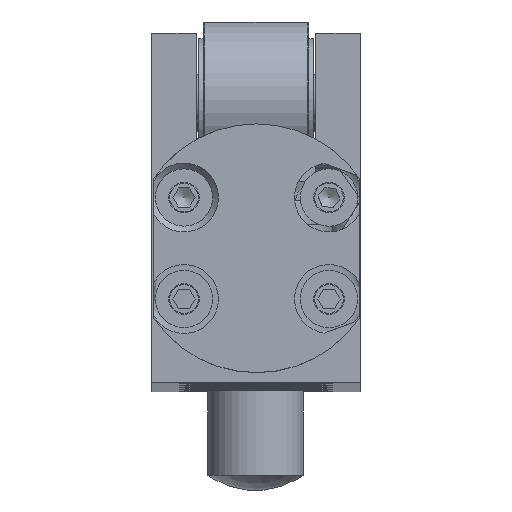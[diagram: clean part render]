
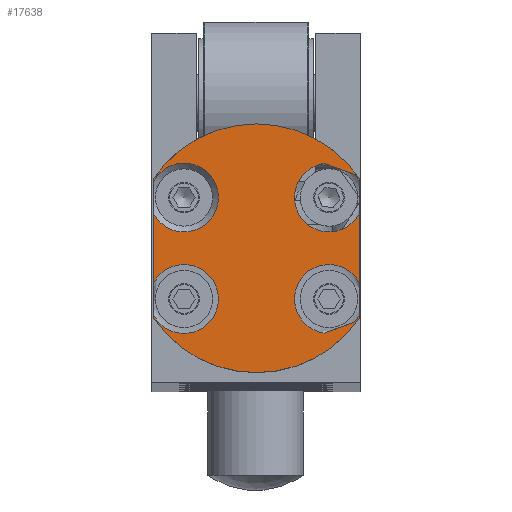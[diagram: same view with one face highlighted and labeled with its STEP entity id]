
A CAD part, top view. The second image highlights one B-rep face of the part: STEP entity #17638.
In plain terms, the highlighted planar face has unit normal (0, 0, 1).
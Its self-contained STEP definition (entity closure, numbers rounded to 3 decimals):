
#775=LINE('',#32614,#1469);
#776=LINE('',#32617,#1470);
#777=LINE('',#32621,#1471);
#778=LINE('',#32625,#1472);
#779=LINE('',#32629,#1473);
#780=LINE('',#32633,#1474);
#781=LINE('',#32637,#1475);
#782=LINE('',#32640,#1476);
#1469=VECTOR('',#24685,10.);
#1470=VECTOR('',#24688,10.);
#1471=VECTOR('',#24691,10.);
#1472=VECTOR('',#24694,10.);
#1473=VECTOR('',#24697,10.);
#1474=VECTOR('',#24700,10.);
#1475=VECTOR('',#24703,10.);
#1476=VECTOR('',#24706,10.);
#3160=FACE_OUTER_BOUND('',#4233,.T.);
#4233=EDGE_LOOP('',(#14296,#14297,#14298,#14299,#14300,#14301,#14302,#14303,
#14304,#14305,#14306,#14307,#14308,#14309,#14310,#14311));
#5790=CIRCLE('',#19790,3.6);
#5793=CIRCLE('',#19793,3.6);
#5794=CIRCLE('',#19797,3.6);
#5795=CIRCLE('',#19798,3.6);
#5796=CIRCLE('',#19799,13.);
#5797=CIRCLE('',#19800,3.6);
#5798=CIRCLE('',#19801,3.6);
#5799=CIRCLE('',#19802,13.);
#7615=VERTEX_POINT('',#32590);
#7616=VERTEX_POINT('',#32591);
#7617=VERTEX_POINT('',#32595);
#7621=VERTEX_POINT('',#32606);
#7622=VERTEX_POINT('',#32616);
#7623=VERTEX_POINT('',#32618);
#7624=VERTEX_POINT('',#32620);
#7625=VERTEX_POINT('',#32622);
#7626=VERTEX_POINT('',#32624);
#7627=VERTEX_POINT('',#32626);
#7628=VERTEX_POINT('',#32628);
#7629=VERTEX_POINT('',#32630);
#7630=VERTEX_POINT('',#32632);
#7631=VERTEX_POINT('',#32634);
#7632=VERTEX_POINT('',#32636);
#7633=VERTEX_POINT('',#32638);
#9995=EDGE_CURVE('',#7617,#7615,#5790,.T.);
#10001=EDGE_CURVE('',#7616,#7621,#5793,.T.);
#10003=EDGE_CURVE('',#7621,#7617,#775,.T.);
#10004=EDGE_CURVE('',#7615,#7622,#776,.T.);
#10005=EDGE_CURVE('',#7622,#7623,#5794,.T.);
#10006=EDGE_CURVE('',#7623,#7624,#777,.T.);
#10007=EDGE_CURVE('',#7624,#7625,#5795,.T.);
#10008=EDGE_CURVE('',#7625,#7626,#778,.T.);
#10009=EDGE_CURVE('',#7627,#7626,#5796,.T.);
#10010=EDGE_CURVE('',#7627,#7628,#779,.T.);
#10011=EDGE_CURVE('',#7628,#7629,#5797,.T.);
#10012=EDGE_CURVE('',#7629,#7630,#780,.T.);
#10013=EDGE_CURVE('',#7630,#7631,#5798,.T.);
#10014=EDGE_CURVE('',#7631,#7632,#781,.T.);
#10015=EDGE_CURVE('',#7633,#7632,#5799,.T.);
#10016=EDGE_CURVE('',#7633,#7616,#782,.T.);
#14296=ORIENTED_EDGE('',*,*,#10001,.T.);
#14297=ORIENTED_EDGE('',*,*,#10003,.T.);
#14298=ORIENTED_EDGE('',*,*,#9995,.T.);
#14299=ORIENTED_EDGE('',*,*,#10004,.T.);
#14300=ORIENTED_EDGE('',*,*,#10005,.T.);
#14301=ORIENTED_EDGE('',*,*,#10006,.T.);
#14302=ORIENTED_EDGE('',*,*,#10007,.T.);
#14303=ORIENTED_EDGE('',*,*,#10008,.T.);
#14304=ORIENTED_EDGE('',*,*,#10009,.F.);
#14305=ORIENTED_EDGE('',*,*,#10010,.T.);
#14306=ORIENTED_EDGE('',*,*,#10011,.T.);
#14307=ORIENTED_EDGE('',*,*,#10012,.T.);
#14308=ORIENTED_EDGE('',*,*,#10013,.T.);
#14309=ORIENTED_EDGE('',*,*,#10014,.T.);
#14310=ORIENTED_EDGE('',*,*,#10015,.F.);
#14311=ORIENTED_EDGE('',*,*,#10016,.T.);
#16075=PLANE('',#19796);
#17638=ADVANCED_FACE('',(#3160),#16075,.T.);
#19790=AXIS2_PLACEMENT_3D('',#32596,#24671,#24672);
#19793=AXIS2_PLACEMENT_3D('',#32610,#24678,#24679);
#19796=AXIS2_PLACEMENT_3D('',#32615,#24686,#24687);
#19797=AXIS2_PLACEMENT_3D('',#32619,#24689,#24690);
#19798=AXIS2_PLACEMENT_3D('',#32623,#24692,#24693);
#19799=AXIS2_PLACEMENT_3D('',#32627,#24695,#24696);
#19800=AXIS2_PLACEMENT_3D('',#32631,#24698,#24699);
#19801=AXIS2_PLACEMENT_3D('',#32635,#24701,#24702);
#19802=AXIS2_PLACEMENT_3D('',#32639,#24704,#24705);
#24671=DIRECTION('center_axis',(0.,0.,
-1.));
#24672=DIRECTION('ref_axis',(-0.342,0.94,0.));
#24678=DIRECTION('center_axis',(0.,0.,
-1.));
#24679=DIRECTION('ref_axis',(-0.342,0.94,0.));
#24685=DIRECTION('',(-0.94,-0.342,0.));
#24686=DIRECTION('center_axis',(0.,0.,
1.));
#24687=DIRECTION('ref_axis',(1.,0.,0.));
#24688=DIRECTION('',(0.,1.,0.));
#24689=DIRECTION('center_axis',(0.,0.,
-1.));
#24690=DIRECTION('ref_axis',(-0.342,-0.94,0.));
#24691=DIRECTION('',(0.94,-0.342,0.));
#24692=DIRECTION('center_axis',(0.,0.,
-1.));
#24693=DIRECTION('ref_axis',(-0.342,-0.94,0.));
#24694=DIRECTION('',(0.,1.,0.));
#24695=DIRECTION('center_axis',(0.,0.,
-1.));
#24696=DIRECTION('ref_axis',(0.,1.,0.));
#24697=DIRECTION('',(0.,-1.,0.));
#24698=DIRECTION('center_axis',(0.,0.,
-1.));
#24699=DIRECTION('ref_axis',(1.,0.,0.));
#24700=DIRECTION('',(0.,-1.,0.));
#24701=DIRECTION('center_axis',(0.,0.,
-1.));
#24702=DIRECTION('ref_axis',(1.,0.,0.));
#24703=DIRECTION('',(0.,-1.,0.));
#24704=DIRECTION('center_axis',(0.,0.,
-1.));
#24705=DIRECTION('ref_axis',(0.,1.,0.));
#24706=DIRECTION('',(0.,1.,0.));
#32590=CARTESIAN_POINT('',(10.8,-7.855,286.));
#32591=CARTESIAN_POINT('',(10.8,-11.256,286.));
#32595=CARTESIAN_POINT('',(7.114,-13.119,286.));
#32596=CARTESIAN_POINT('Origin',(7.627,-9.556,286.));
#32606=CARTESIAN_POINT('',(10.311,-11.955,286.));
#32610=CARTESIAN_POINT('Origin',(7.627,-9.556,286.));
#32614=CARTESIAN_POINT('',(8.206,-12.721,286.));
#32615=CARTESIAN_POINT('Origin',(0.05,2.25,286.));
#32616=CARTESIAN_POINT('',(10.8,-0.645,286.));
#32617=CARTESIAN_POINT('',(10.8,-4.655,286.));
#32618=CARTESIAN_POINT('',(7.114,4.619,286.));
#32619=CARTESIAN_POINT('Origin',(7.627,1.056,286.));
#32620=CARTESIAN_POINT('',(10.311,3.455,286.));
#32621=CARTESIAN_POINT('',(6.117,4.982,286.));
#32622=CARTESIAN_POINT('',(10.8,2.756,286.));
#32623=CARTESIAN_POINT('Origin',(7.627,1.056,286.));
#32624=CARTESIAN_POINT('',(10.8,3.06,286.));
#32625=CARTESIAN_POINT('',(10.8,-4.655,286.));
#32626=CARTESIAN_POINT('',(-10.7,3.06,286.));
#32627=CARTESIAN_POINT('Origin',(0.05,-4.25,286.));
#32628=CARTESIAN_POINT('',(-10.7,2.756,286.));
#32629=CARTESIAN_POINT('',(-10.7,2.655,286.));
#32630=CARTESIAN_POINT('',(-10.7,-0.645,286.));
#32631=CARTESIAN_POINT('Origin',(-7.527,1.056,286.));
#32632=CARTESIAN_POINT('',(-10.7,-7.855,286.));
#32633=CARTESIAN_POINT('',(-10.7,2.655,286.));
#32634=CARTESIAN_POINT('',(-10.7,-11.256,286.));
#32635=CARTESIAN_POINT('Origin',(-7.527,-9.556,286.));
#32636=CARTESIAN_POINT('',(-10.7,-11.56,286.));
#32637=CARTESIAN_POINT('',(-10.7,2.655,286.));
#32638=CARTESIAN_POINT('',(10.8,-11.56,286.));
#32639=CARTESIAN_POINT('Origin',(0.05,-4.25,286.));
#32640=CARTESIAN_POINT('',(10.8,-4.655,286.));
